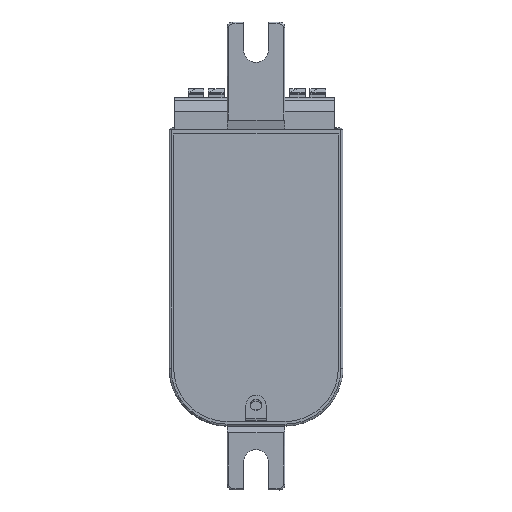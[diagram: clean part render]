
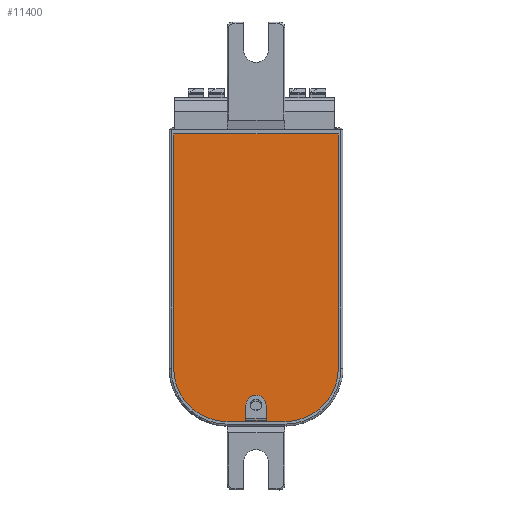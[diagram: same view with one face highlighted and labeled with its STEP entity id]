
A CAD part, front view. The second image highlights one B-rep face of the part: STEP entity #11400.
In plain terms, the highlighted planar face has unit normal (0, -1, -0.016).
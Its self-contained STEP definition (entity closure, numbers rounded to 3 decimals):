
#1088=DIRECTION('',(0.,-0.016,1.));
#1089=VECTOR('',#1088,40.388);
#1090=CARTESIAN_POINT('',(-6.742,6.183,
-58.818));
#1091=LINE('',#1090,#1089);
#1095=DIRECTION('',(1.,0.,0.));
#1096=VECTOR('',#1095,28.388);
#1097=CARTESIAN_POINT('',(-6.742,5.532,
-18.436));
#1098=LINE('',#1097,#1096);
#1102=DIRECTION('',(0.,0.016,-1.));
#1103=VECTOR('',#1102,40.388);
#1104=CARTESIAN_POINT('',(21.646,5.532,-18.436));
#1105=LINE('',#1104,#1103);
#1109=CARTESIAN_POINT('',(12.448,6.183,-58.819));
#1110=DIRECTION('',(0.,1.,0.016));
#1111=DIRECTION('',(1.,0.,0.));
#1112=AXIS2_PLACEMENT_3D('',#1109,#1110,#1111);
#1117=DIRECTION('',(-1.,0.,0.));
#1118=VECTOR('',#1117,9.99);
#1119=CARTESIAN_POINT('',(12.447,6.332,-68.016));
#1120=LINE('',#1119,#1118);
#1124=CARTESIAN_POINT('',(2.456,6.183,-58.819));
#1125=DIRECTION('',(0.,1.,0.016));
#1126=DIRECTION('',(0.,0.016,-1.));
#1127=AXIS2_PLACEMENT_3D('',#1124,#1125,#1126);
#1132=CARTESIAN_POINT('',(7.452,6.286,-65.194));
#1133=DIRECTION('',(0.,-1.,-0.016));
#1134=DIRECTION('',(1.,0.,0.));
#1135=AXIS2_PLACEMENT_3D('',#1132,#1133,#1134);
#1140=DIRECTION('',(0.,-0.016,1.));
#1141=VECTOR('',#1140,2.624);
#1142=CARTESIAN_POINT('',(5.702,6.329,-67.818));
#1143=LINE('',#1142,#1141);
#1175=DIRECTION('',(0.,0.016,-1.));
#1176=VECTOR('',#1175,2.624);
#1177=CARTESIAN_POINT('',(9.202,6.286,-65.194));
#1178=LINE('',#1177,#1176);
#1189=DIRECTION('',(-1.,0.,0.));
#1190=VECTOR('',#1189,3.5);
#1191=CARTESIAN_POINT('',(9.202,6.329,-67.818));
#1192=LINE('',#1191,#1190);
#9046=CARTESIAN_POINT('',(9.202,6.329,-67.818));
#9047=CARTESIAN_POINT('',(5.702,6.329,-67.818));
#9048=VERTEX_POINT('',#9046);
#9049=VERTEX_POINT('',#9047);
#9103=CARTESIAN_POINT('',(-6.742,6.183,
-58.818));
#9104=CARTESIAN_POINT('',(-6.742,5.532,
-18.436));
#9105=VERTEX_POINT('',#9103);
#9106=VERTEX_POINT('',#9104);
#9107=CARTESIAN_POINT('',(21.646,5.532,-18.436));
#9108=VERTEX_POINT('',#9107);
#9109=CARTESIAN_POINT('',(21.646,6.183,-58.818));
#9110=VERTEX_POINT('',#9109);
#9111=CARTESIAN_POINT('',(12.447,6.332,-68.016));
#9112=VERTEX_POINT('',#9111);
#9113=CARTESIAN_POINT('',(2.457,6.332,-68.016));
#9114=VERTEX_POINT('',#9113);
#9115=CARTESIAN_POINT('',(5.702,6.286,-65.194));
#9116=VERTEX_POINT('',#9115);
#9117=CARTESIAN_POINT('',(9.202,6.286,-65.194));
#9118=VERTEX_POINT('',#9117);
#11377=CARTESIAN_POINT('',(7.452,5.88,
-40.026));
#11378=DIRECTION('',(0.,-1.,
-0.016));
#11379=DIRECTION('',(1.,0.,0.));
#11380=AXIS2_PLACEMENT_3D('',#11377,#11378,#11379);
#11381=PLANE('',#11380);
#11382=ORIENTED_EDGE('',*,*,#11259,.T.);
#11383=ORIENTED_EDGE('',*,*,#11281,.T.);
#11384=ORIENTED_EDGE('',*,*,#11302,.T.);
#11385=ORIENTED_EDGE('',*,*,#11323,.T.);
#11386=ORIENTED_EDGE('',*,*,#11344,.T.);
#11387=ORIENTED_EDGE('',*,*,#11364,.T.);
#11388=EDGE_LOOP('',(#11382,#11383,#11384,#11385,#11386,#11387));
#11389=FACE_OUTER_BOUND('',#11388,.F.);
#11391=ORIENTED_EDGE('',*,*,#11390,.F.);
#11393=ORIENTED_EDGE('',*,*,#11392,.F.);
#11395=ORIENTED_EDGE('',*,*,#11394,.F.);
#11397=ORIENTED_EDGE('',*,*,#11396,.T.);
#11398=EDGE_LOOP('',(#11391,#11393,#11395,#11397));
#11399=FACE_BOUND('',#11398,.F.);
#1113=CIRCLE('',#1112,9.198);
#1128=CIRCLE('',#1127,9.198);
#1136=CIRCLE('',#1135,1.75);
#11259=EDGE_CURVE('',#9105,#9106,#1091,.T.);
#11281=EDGE_CURVE('',#9106,#9108,#1098,.T.);
#11302=EDGE_CURVE('',#9108,#9110,#1105,.T.);
#11323=EDGE_CURVE('',#9110,#9112,#1113,.T.);
#11344=EDGE_CURVE('',#9112,#9114,#1120,.T.);
#11364=EDGE_CURVE('',#9114,#9105,#1128,.T.);
#11390=EDGE_CURVE('',#9049,#9116,#1143,.T.);
#11392=EDGE_CURVE('',#9048,#9049,#1192,.T.);
#11394=EDGE_CURVE('',#9118,#9048,#1178,.T.);
#11396=EDGE_CURVE('',#9118,#9116,#1136,.T.);
#11400=ADVANCED_FACE('',(#11389,#11399),#11381,.T.);
